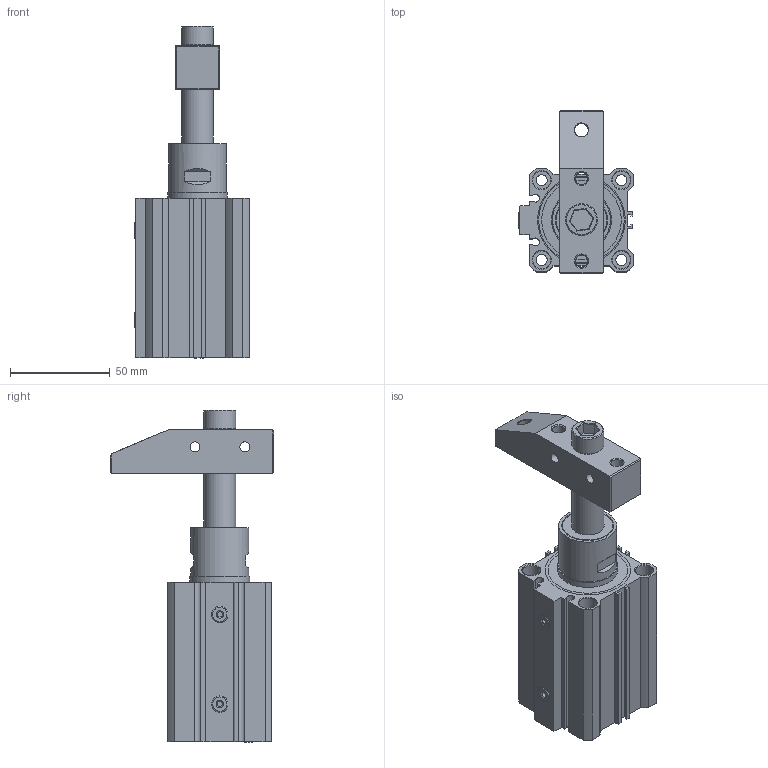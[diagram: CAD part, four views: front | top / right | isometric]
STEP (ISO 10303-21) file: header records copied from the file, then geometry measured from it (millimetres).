
FILE_DESCRIPTION(/* description */ ('STEP AP203'),/* implementation_level */ '2;1');
FILE_NAME(/* name */ 'E:\SERWER_ZAPAS\MODELE brakujace\PNEUMATIC\PB(STEP)\pbs-4感应转角缸\PBS-40L_OTWARTY.stp',/* time_stamp */ '2019-02-01T15:29:58+01:00',/* author */ ('Admin'),/* organization */ ('Microsoft'),/* preprocessor_version */ 'ST-DEVELOPER v17.2',/* originating_system */ 'Autodesk Inventor 2019',/* authorisation */ '');
FILE_SCHEMA (('AP203_CONFIGURATION_CONTROLLED_3D_DESIGN_OF_MECHANICAL_PARTS_AND_ASSEMBLIES_MIM_LF { 1 0 10303 203 3 1 4 }','AUTOMOTIVE_DESIGN { 1 0 10303 214 3 1 1 }'));
Length unit declared in the file: millimetre
Products named in the file (11): PBS-40L_OTWARTY; Ç°¸Ç_Ä¬ÈÏ; µæ¿é_Ä¬ÈÏ; Ñ¹±Û_Ä¬ÈÏ; du_Ä¬ÈÏ; m10_Ä¬ÈÏ; ±¾Ìå_Ä¬ÈÏ; »îÈû_Ä¬ÈÏ; s¸Ë_Ä¬ÈÏ; »îÈû¸Ë_Ä¬ÈÏ; ºó¸Ç_Ä¬ÈÏ
Assembly tree (11 placements, depth 2):
  PBS-40L_OTWARTY
    Ç°¸Ç_Ä¬ÈÏ
    du_Ä¬ÈÏ  x2
    µæ¿é_Ä¬ÈÏ
    Ñ¹±Û_Ä¬ÈÏ
    m10_Ä¬ÈÏ
    ±¾Ìå_Ä¬ÈÏ
    »îÈû_Ä¬ÈÏ
    s¸Ë_Ä¬ÈÏ
    »îÈû¸Ë_Ä¬ÈÏ
    ºó¸Ç_Ä¬ÈÏ
Bounding box: 57.5 x 82 x 166.5 mm (x, y, z)
Volume: 202251.7 mm3; surface area: 94035.7 mm2
Topology: 11 solids, 11 shells, 465 faces, 1318 edges, 921 vertices
Faces by surface type: plane 153, cone 141, cylinder 121, torus 44, bspline 6
Full cylindrical faces by diameter (mm): 2 x3, 2.808 x2, 4 x5, 5 x2, 5.5 x4, 6.2 x2, 6.8 x2, 8.2 x4, 9 x8, 10 x2, 10.5 x1, 12 x4, 16 x4, 16.1 x3, 16.5 x1, 18 x10, 19 x1, 20.3 x1, 22 x2, 24 x2, 26 x2, 29 x1, 30 x1, 32 x1, 36 x1, 36.7 x1, 37 x1, 40 x11, 44 x15
Entity records: 16834 total; most frequent: CARTESIAN_POINT 3702, DIRECTION 2923, ORIENTED_EDGE 2592, EDGE_CURVE 1296, AXIS2_PLACEMENT_3D 1224, VERTEX_POINT 907, CIRCLE 740, EDGE_LOOP 543
